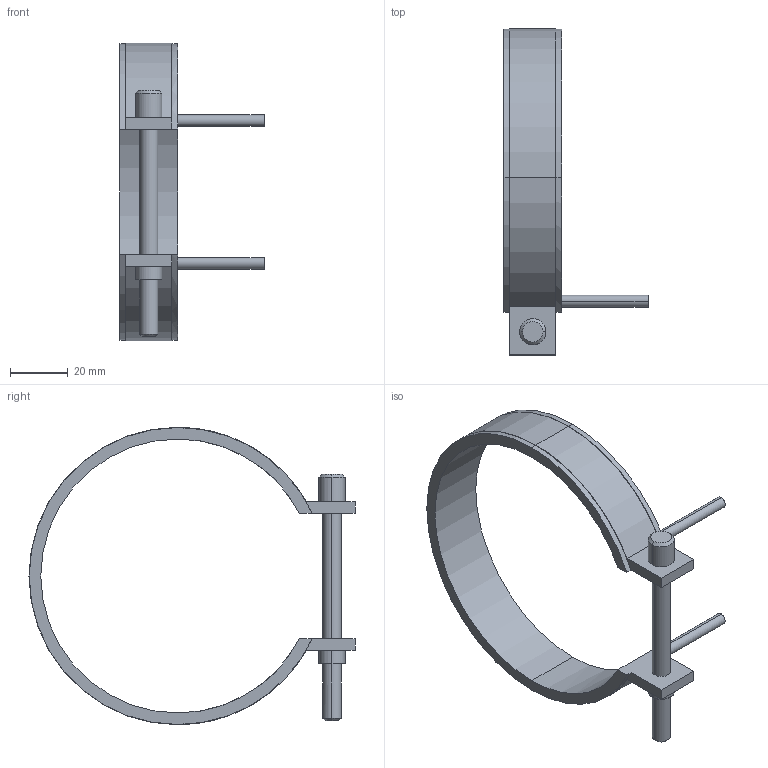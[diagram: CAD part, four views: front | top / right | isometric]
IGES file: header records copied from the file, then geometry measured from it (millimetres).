
Start section: START RECORD GO HERE.
Global section: file name: 14095020.igs; native system: DASSAULT SYSTEMES CATIA V5 R20 - www.3ds.com; preprocessor: CATIA Version 5 Release 20 ; author: Utente; organization: NB04-ASUS; date: 20210406.180744; units: millimetre
Bounding box: 50 x 113.1 x 103.2 mm (x, y, z)
Surface area: 16582.4 mm2 (no closed solid volume)
Topology: 0 solids, 0 shells, 45 faces, 232 edges, 232 vertices
Faces by surface type: revolution 28, plane 17
